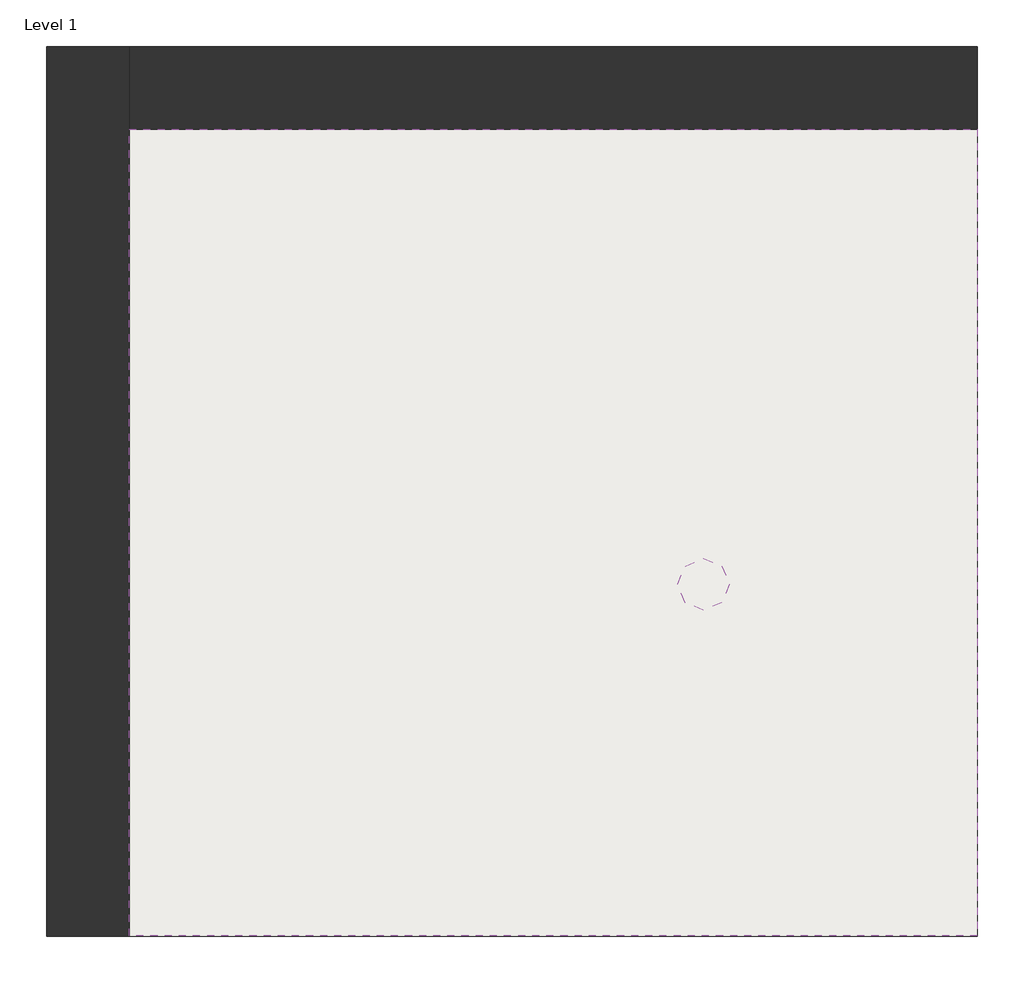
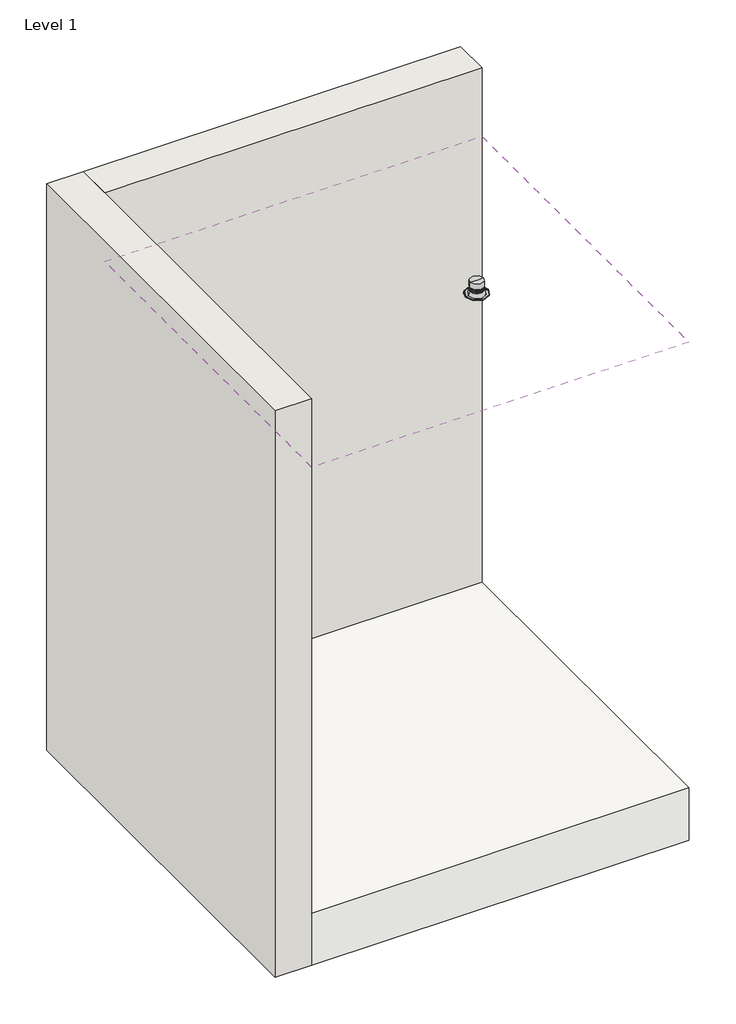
# One storey: 2 walls, 1 covering, 1 light fixture, 1 slab.
"""IFC4 building model written with IfcOpenShell, lengths in millimetres."""

from ifc_helpers import new_model, si_unit, point, frame, frame_2d, origin, place, context, project, spatial, polyline, circle_curve, trimmed, segment, composite_curve, outline, extrude, faceted_brep, transform, mapped, element, save
from components import light_fixture_063f11ae

model = new_model("IFC4")

# Units and contexts
model_context = context("Model", 3, world=origin())
ifc_project = project(units=[si_unit("LENGTHUNIT", "METRE", prefix="MILLI")], contexts=[model_context])

# Site, building, storey
site = spatial("IfcSite", under=ifc_project)
building = spatial("IfcBuilding", under=site)
storey = spatial("IfcBuildingStorey", under=building, Name="Level 1", Elevation=0.0)

# Covering
placement = place(None, origin())
element("IfcCovering", 1, ObjectType="Ceiling 2", at=placement, inside=storey, context=model_context, shape_type="SweptSolid", body=[
    extrude(outline(polyline([(2208.2676417, 3741.7404022), (4291.0676417, 3741.7404022), (4291.0676417, 1760.5404022), (2208.2676417, 1760.5404022), (2208.2676417, 3741.7404022)]), holes=[composite_curve([segment(trimmed(circle_curve(frame_2d((3618.1948566, 2624.115042)), 49.2125), [point((3568.9823566, 2624.115042))], [point((3667.4073566, 2624.115042))], True, "CARTESIAN"), True, "CONTINUOUS"), segment(trimmed(circle_curve(frame_2d((3618.1948566, 2624.115042)), 49.2125), [point((3667.4073566, 2624.115042))], [point((3568.9823566, 2624.115042))], True, "CARTESIAN"), True, "CONTINUOUS")], self_intersect=False)]), frame((0.0, 0.0, 2600.0), z_axis=(0.0, 0.0, 1.0), x_axis=(1.0, 0.0, 0.0)), (0.0, 0.0, 1.0), 25.4),
])

# Light fixture
light_fixture_shape = light_fixture_063f11ae(model_context)
element("IfcLightFixture", 2, ObjectType="LREBLD402_ceiling based : LREBLD402W-T30", at=placement, inside=storey, context=model_context, shape_type="MappedRepresentation", body=[
    mapped(light_fixture_shape, transform((3618.1948566, 2624.115042, 2600.0), x_axis=(1.0, 0.0, 0.0), y_axis=(0.0, 1.0, 0.0), z_axis=(0.0, 0.0, 1.0))),
])

# Slab
element("IfcSlab", 3, ObjectType="Floor 1", at=placement, inside=storey, context=model_context, shape_type="SweptSolid", body=[
    extrude(outline(polyline([(4291.0676417, 3741.7404022), (4291.0676417, 1760.5404022), (2208.2676417, 1760.5404022), (2208.2676417, 3741.7404022), (4291.0676417, 3741.7404022)])), frame((0.0, 0.0, -304.8), z_axis=(0.0, 0.0, 1.0), x_axis=(1.0, 0.0, 0.0)), (0.0, 0.0, 1.0), 304.8),
])

# Walls
element("IfcWall", 4, ObjectType="Wall 1", at=placement, inside=storey, context=model_context, shape_type="Brep", body=[
    faceted_brep([(2005.0676417, 3944.9404022, -304.8), (2005.0676417, 1760.5404022, -304.8), (2005.0676417, 1760.5404022, 3000.0), (2005.0676417, 3944.9404022, 3000.0), (2208.2676417, 3944.9404022, -304.8), (2208.2676417, 3944.9404022, 3000.0), (2208.2676417, 3741.7404022, 3000.0), (2208.2676417, 1760.5404022, 3000.0), (2208.2676417, 1760.5404022, -304.8), (2208.2676417, 3741.7404022, -304.8)], [[[0, 1, 2, 3]], [[4, 5, 6, 7, 8, 9]], [[1, 0, 4, 9, 8]], [[2, 1, 8, 7]], [[3, 2, 7, 6, 5]], [[0, 3, 5, 4]]]),
])
element("IfcWall", 5, ObjectType="Wall 1", at=placement, inside=storey, context=model_context, shape_type="SweptSolid", body=[
    extrude(outline(polyline([(4291.0676417, 3741.7404022), (2208.2676417, 3741.7404022), (2208.2676417, 3944.9404022), (4291.0676417, 3944.9404022), (4291.0676417, 3741.7404022)])), frame((0.0, 0.0, -304.8), z_axis=(0.0, 0.0, 1.0), x_axis=(1.0, 0.0, 0.0)), (0.0, 0.0, 1.0), 3304.8),
])

save(model, "model.ifc")
